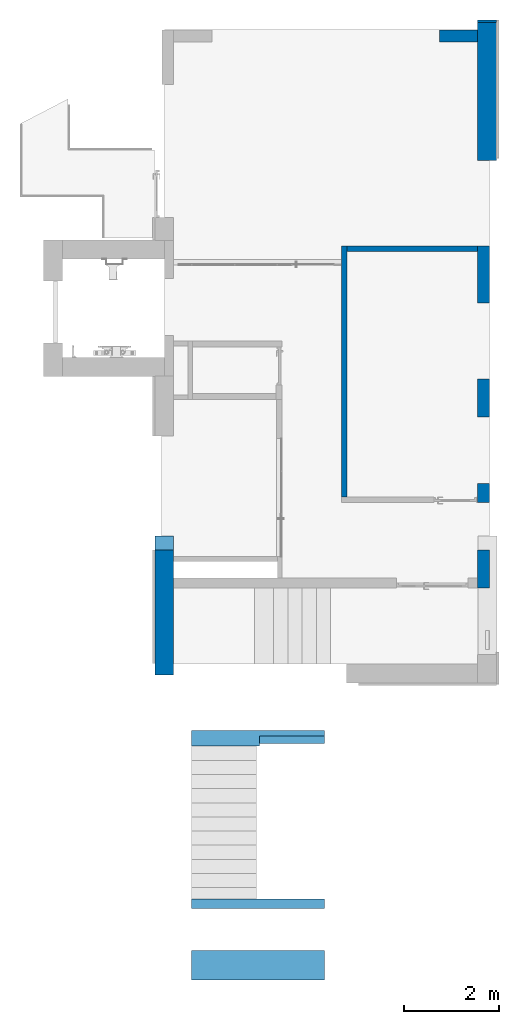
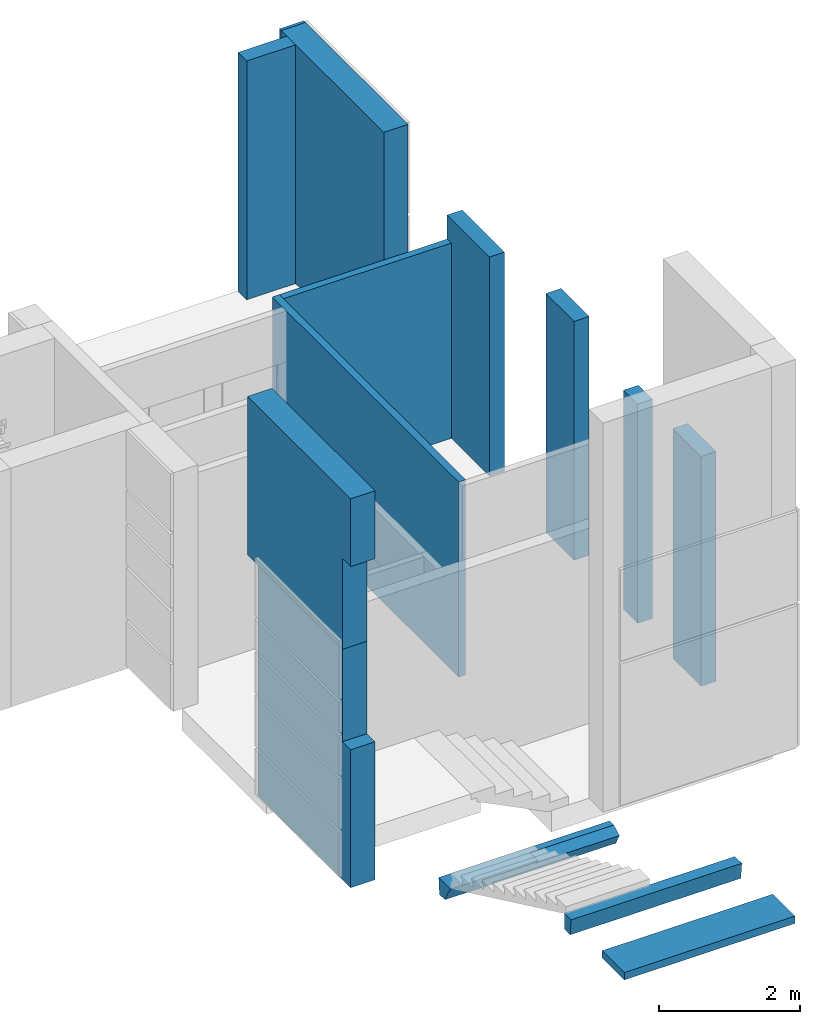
# One storey, part 5 of 15: 11 walls, 3 stairs, 3 elements without a shape of their own.
"""IFC2X3 building model written with IfcOpenShell, lengths in millimetres."""

from ifc_helpers import new_model, entity, si_unit, converted_unit, derived_unit, direction, frame, frame_2d, origin, place, context, subcontext, project, spatial, polyline, rectangle, outline, extrude, face_set, faceted_brep, surface_model, material, layer, layer_set, layer_usage, type_object, element, aggregate, save


model = new_model("IFC2X3")

# Units and contexts
model_context = context("Model", 3, precision=0.01, world=origin(), true_north=direction((6.12303176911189e-17, 1.0)))
body_context = subcontext(model_context, "Body", "Model", "MODEL_VIEW")
ifc_project = project(units=[si_unit("LENGTHUNIT", "METRE", prefix="MILLI"), si_unit("AREAUNIT", "SQUARE_METRE"), si_unit("VOLUMEUNIT", "CUBIC_METRE"), converted_unit("PLANEANGLEUNIT", "DEGREE", entity("IfcRatioMeasure", 0.0174532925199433), si_unit("PLANEANGLEUNIT", "RADIAN"), dimensions=[0, 0, 0, 0, 0, 0, 0]), si_unit("MASSUNIT", "GRAM", prefix="KILO"), derived_unit("MASSDENSITYUNIT", [(si_unit("MASSUNIT", "GRAM", prefix="KILO"), 1), (si_unit("LENGTHUNIT", "METRE"), -3)]), si_unit("TIMEUNIT", "SECOND"), si_unit("FREQUENCYUNIT", "HERTZ"), si_unit("THERMODYNAMICTEMPERATUREUNIT", "DEGREE_CELSIUS"), derived_unit("THERMALTRANSMITTANCEUNIT", [(si_unit("MASSUNIT", "GRAM", prefix="KILO"), 1), (si_unit("THERMODYNAMICTEMPERATUREUNIT", "KELVIN"), -1), (si_unit("TIMEUNIT", "SECOND"), -3)]), derived_unit("VOLUMETRICFLOWRATEUNIT", [(si_unit("LENGTHUNIT", "METRE"), 3), (si_unit("TIMEUNIT", "SECOND"), -1)]), si_unit("ELECTRICCURRENTUNIT", "AMPERE"), si_unit("ELECTRICVOLTAGEUNIT", "VOLT"), si_unit("POWERUNIT", "WATT"), si_unit("FORCEUNIT", "NEWTON", prefix="KILO"), si_unit("ILLUMINANCEUNIT", "LUX"), si_unit("LUMINOUSFLUXUNIT", "LUMEN"), si_unit("LUMINOUSINTENSITYUNIT", "CANDELA"), derived_unit("USERDEFINED", [(si_unit("MASSUNIT", "GRAM", prefix="KILO"), -1), (si_unit("LENGTHUNIT", "METRE"), -2), (si_unit("TIMEUNIT", "SECOND"), 3), (si_unit("LUMINOUSFLUXUNIT", "LUMEN"), 1)]), derived_unit("LINEARVELOCITYUNIT", [(si_unit("LENGTHUNIT", "METRE"), 1), (si_unit("TIMEUNIT", "SECOND"), -1)]), si_unit("PRESSUREUNIT", "PASCAL"), derived_unit("USERDEFINED", [(si_unit("LENGTHUNIT", "METRE"), -2), (si_unit("MASSUNIT", "GRAM", prefix="KILO"), 1), (si_unit("TIMEUNIT", "SECOND"), -2)])], contexts=[model_context])

# Site, building, storey
site_placement = place(None, frame((-151.875543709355, 2715.0, 0.0)))
site = spatial("IfcSite", under=ifc_project, at=site_placement, Name="Surface", CompositionType="ELEMENT")
building_placement = place(site_placement, origin())
building = spatial("IfcBuilding", under=site, at=building_placement, CompositionType="ELEMENT")
storey_placement = place(building_placement, frame((0.0, 0.0, 7670.0)))
storey = spatial("IfcBuildingStorey", under=building, at=storey_placement, Name="uus 3 korrus", CompositionType="ELEMENT", Elevation=7670.00000000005)

# Walls
ifc_material_1 = material(Name="__Kips GN13_tava")
ifc_layer_1 = layer(ifc_material_1, 12.5)
ifc_layer_2 = layer(ifc_material_1, 12.5)
ifc_material_2 = material(Name="__Soojustus EPS")
ifc_layer_3 = layer(ifc_material_2, 66.0)
ifc_layer_4 = layer(ifc_material_1, 12.5)
ifc_layer_5 = layer(ifc_material_1, 12.5)
ifc_layer_set_1 = layer_set([ifc_layer_1, ifc_layer_2, ifc_layer_3, ifc_layer_4, ifc_layer_5], Name="Basic Wall:SS-3_Kipssein tava ruumide vahel")
ifc_layer_usage_1 = layer_usage(ifc_layer_set_1, "AXIS2", "NEGATIVE", 58.0)
wall_type_1 = type_object("IfcWallType", Name="Basic Wall:SS-3_Kipssein tava ruumide vahel", PredefinedType="STANDARD", material=ifc_layer_set_1)
wall_1_placement = place(storey_placement, frame((35589.6162681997, 22009.9551267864, 0.0), z_axis=(0.0, 0.0, 1.0), x_axis=(0.0, -1.0, 0.0)))
element("IfcWallStandardCase", 1, at=wall_1_placement, inside=storey, type_object=wall_type_1, material=ifc_layer_usage_1, Name="Basic Wall:SS-3_Kipssein tava ruumide vahel", ObjectType="Basic Wall:SS-3_Kipssein tava ruumide vahel", context=body_context, shape_type="SweptSolid", body=[
    extrude(rectangle(XDim=5283.91025354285, YDim=116.0, at=frame_2d((2641.95512677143, -5.11590769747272e-13), x_axis=(-1.0, 0.0))), origin(), (0.0, 0.0, 1.0), 3380.0),
])
ifc_layer_usage_2 = layer_usage(ifc_layer_set_1, "AXIS2", "NEGATIVE", 58.0)
wall_2_placement = place(storey_placement, frame((35647.6162681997, 21951.9551267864, 0.0)))
element("IfcWallStandardCase", 2, at=wall_2_placement, inside=storey, type_object=wall_type_1, material=ifc_layer_usage_2, Name="Basic Wall:SS-3_Kipssein tava ruumide vahel", ObjectType="Basic Wall:SS-3_Kipssein tava ruumide vahel", context=body_context, shape_type="SweptSolid", body=[
    extrude(rectangle(XDim=2749.00000000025, YDim=116.0, at=frame_2d((1374.50000000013, 2.41584530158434e-13), x_axis=(-1.0, 0.0))), origin(), (0.0, 0.0, 1.0), 3380.0),
])
ifc_material_3 = material(Name="__Tuuletõkkeplaat")
ifc_layer_6 = layer(ifc_material_3, 9.0)
ifc_layer_7 = layer(ifc_material_2, 200.0)
ifc_material_4 = material(Name="__Kergblokk")
ifc_layer_8 = layer(ifc_material_4, 190.0)
ifc_layer_set_2 = layer_set([ifc_layer_6, ifc_layer_7, ifc_layer_8], Name="Basic Wall:VS-2.2_Juurdeehituse välissein")
wall_type_2 = type_object("IfcWallType", Name="Basic Wall:VS-2.2_Juurdeehituse välissein", PredefinedType="STANDARD", material=ifc_layer_set_2)
wall_3_placement = place(storey_placement, frame((31802.1162682, 12980.0, 0.0), z_axis=(0.0, 0.0, 1.0), x_axis=(0.0, 1.0, 0.0)))
element("IfcWall", 3, at=wall_3_placement, inside=storey, type_object=wall_type_2, Name="Basic Wall:VS-2.2_Juurdeehituse välissein", ObjectType="Basic Wall:VS-2.2_Juurdeehituse välissein", context=body_context, shape_type="Brep", body=[
    faceted_brep([(2630.0, -199.500000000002, 0.0), (2630.0, -199.500000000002, 3990.0), (230.0, -199.500000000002, 3990.0), (230.0, -199.500000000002, 2390.0), (0.0, -199.500000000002, 2390.0), (0.0, -199.500000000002, 0.0), (1830.0, -199.500000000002, 0.0), (2040.0, -199.500000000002, 0.0), (2630.0, 199.499999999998, 0.0), (0.0, 199.499999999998, 0.0), (0.0, 199.499999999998, 2390.0), (230.0, 199.499999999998, 2390.0), (230.0, 199.499999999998, 3990.0), (2630.0, 199.499999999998, 3990.0)], [[[0, 1, 2, 3, 4, 5, 6, 7]], [[8, 9, 10, 11, 12, 13]], [[1, 0, 8, 13]], [[2, 1, 13, 12]], [[0, 7, 6, 5, 9, 8]], [[5, 4, 10, 9]], [[3, 11, 10, 4]], [[3, 2, 12, 11]]]),
])
ifc_layer_usage_3 = layer_usage(ifc_layer_set_2, "AXIS2", "NEGATIVE", 199.5)
wall_4_placement = place(storey_placement, frame((38596.1162681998, 26719.0, 0.0), z_axis=(0.0, 0.0, 1.0), x_axis=(0.0, -1.0, 0.0)))
element("IfcWallStandardCase", 4, at=wall_4_placement, inside=storey, type_object=wall_type_2, material=ifc_layer_usage_3, Name="Basic Wall:VS-2.2_Juurdeehituse välissein", ObjectType="Basic Wall:VS-2.2_Juurdeehituse välissein", context=body_context, shape_type="SweptSolid", body=[
    extrude(rectangle(XDim=2908.999570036, YDim=398.999999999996, at=frame_2d((1454.499785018, -4.68958205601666e-13), x_axis=(-1.0, 0.0))), origin(), (0.0, 0.0, 1.0), 4135.0),
])
wall_5_placement = place(storey_placement, frame((31802.1162682, 12980.0, 3990.0), z_axis=(0.0, 0.0, 1.0), x_axis=(0.0, 1.0, 0.0)))
element("IfcWall", 5, at=wall_5_placement, inside=storey, type_object=wall_type_2, Name="Basic Wall:VS-2.2_Juurdeehituse välissein", ObjectType="Basic Wall:VS-2.2_Juurdeehituse välissein", context=body_context, shape_type="Brep", body=[
    faceted_brep([(230.0, -199.500000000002, 0.0), (2630.0, -199.500000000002, 0.0), (2926.03911016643, -199.500000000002, 0.0), (2926.03911016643, -199.500000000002, 2305.0), (2926.03911016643, -199.500000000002, 2745.0), (266.0, -199.500000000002, 2745.0), (0.0, -199.500000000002, 2745.0), (0.0, -199.500000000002, 1571.36961755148), (230.0, -199.500000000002, 1571.36961755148), (230.0, 199.499999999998, 0.0), (230.0, 199.499999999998, 1571.36961755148), (0.0, 199.499999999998, 1571.36961755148), (0.0, 199.499999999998, 2745.0), (2926.03911016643, 199.499999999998, 2745.0), (2926.03911016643, 199.499999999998, 0.0), (2630.0, 199.499999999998, 0.0)], [[[0, 1, 2, 3, 4, 5, 6, 7, 8]], [[9, 10, 11, 12, 13, 14, 15]], [[6, 5, 4, 13, 12]], [[4, 3, 2, 14, 13]], [[2, 1, 0, 9, 15, 14]], [[7, 11, 10, 8]], [[0, 8, 10, 9]], [[7, 6, 12, 11]]]),
])
ifc_layer_9 = layer(ifc_material_2, 57.0)
ifc_layer_10 = layer(ifc_material_4, 190.0)
ifc_layer_set_3 = layer_set([ifc_layer_9, ifc_layer_10], Name="Basic Wall:VS-2.1_Juurdeehituse välissein 2")
ifc_layer_usage_4 = layer_usage(ifc_layer_set_3, "AXIS2", "NEGATIVE", 123.5)
wall_type_3 = type_object("IfcWallType", Name="Basic Wall:VS-2.1_Juurdeehituse välissein 2", PredefinedType="STANDARD", material=ifc_layer_set_3)
wall_6_placement = place(storey_placement, frame((38520.1162681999, 15610.0, 0.0), z_axis=(0.0, 0.0, 1.0), x_axis=(0.0, -1.0, 0.0)))
element("IfcWallStandardCase", 6, at=wall_6_placement, inside=storey, type_object=wall_type_3, material=ifc_layer_usage_4, Name="Basic Wall:VS-2.1_Juurdeehituse välissein 2", ObjectType="Basic Wall:VS-2.1_Juurdeehituse välissein 2", context=body_context, shape_type="SweptSolid", body=[
    extrude(rectangle(XDim=799.999999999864, YDim=246.999999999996, at=frame_2d((399.999999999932, -5.82645043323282e-13), x_axis=(-1.0, 0.0))), origin(), (0.0, 0.0, 1.0), 3980.00000000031),
])
ifc_layer_usage_5 = layer_usage(ifc_layer_set_3, "AXIS2", "NEGATIVE", 123.5)
wall_7_placement = place(storey_placement, frame((38520.1162681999, 17010.0448732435, 0.0), z_axis=(0.0, 0.0, 1.0), x_axis=(0.0, -1.0, 0.0)))
element("IfcWallStandardCase", 7, at=wall_7_placement, inside=storey, type_object=wall_type_3, material=ifc_layer_usage_5, Name="Basic Wall:VS-2.1_Juurdeehituse välissein 2", ObjectType="Basic Wall:VS-2.1_Juurdeehituse välissein 2", context=body_context, shape_type="SweptSolid", body=[
    extrude(rectangle(XDim=400.0, YDim=246.999999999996, at=frame_2d((200.0, -2.8421709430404e-13), x_axis=(-1.0, 0.0))), origin(), (0.0, 0.0, 1.0), 3795.0),
])
ifc_layer_usage_6 = layer_usage(ifc_layer_set_3, "AXIS2", "NEGATIVE", 123.5)
wall_8_placement = place(storey_placement, frame((38520.1162682, 19210.0897464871, 0.0), z_axis=(0.0, 0.0, 1.0), x_axis=(0.0, -1.0, 0.0)))
element("IfcWallStandardCase", 8, at=wall_8_placement, inside=storey, type_object=wall_type_3, material=ifc_layer_usage_6, Name="Basic Wall:VS-2.1_Juurdeehituse välissein 2", ObjectType="Basic Wall:VS-2.1_Juurdeehituse välissein 2", context=body_context, shape_type="SweptSolid", body=[
    extrude(rectangle(XDim=800.0, YDim=246.999999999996, at=frame_2d((400.0, -5.82645043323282e-13), x_axis=(-1.0, 0.0))), origin(), (0.0, 0.0, 1.0), 4135.0),
])
ifc_layer_usage_7 = layer_usage(ifc_layer_set_3, "AXIS2", "NEGATIVE", 123.5)
wall_9_placement = place(storey_placement, frame((38520.1162682, 22009.955126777, 0.0), z_axis=(0.0, 0.0, 1.0), x_axis=(0.0, -1.0, 0.0)))
element("IfcWallStandardCase", 9, at=wall_9_placement, inside=storey, type_object=wall_type_3, material=ifc_layer_usage_7, Name="Basic Wall:VS-2.1_Juurdeehituse välissein 2", ObjectType="Basic Wall:VS-2.1_Juurdeehituse välissein 2", context=body_context, shape_type="SweptSolid", body=[
    extrude(rectangle(XDim=1199.99999999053, YDim=246.999999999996, at=frame_2d((599.999999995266, -8.73967564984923e-13), x_axis=(-1.0, 0.0))), origin(), (0.0, 0.0, 1.0), 3795.0),
])
ifc_layer_usage_8 = layer_usage(ifc_layer_set_3, "AXIS2", "NEGATIVE", 123.5)
wall_10_placement = place(storey_placement, frame((37596.1162682, 26433.5000265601, 0.0)))
element("IfcWallStandardCase", 10, at=wall_10_placement, inside=storey, type_object=wall_type_3, material=ifc_layer_usage_8, Name="Basic Wall:VS-2.1_Juurdeehituse välissein 2", ObjectType="Basic Wall:VS-2.1_Juurdeehituse välissein 2", context=body_context, shape_type="SweptSolid", body=[
    extrude(rectangle(XDim=800.499999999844, YDim=246.999999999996, at=frame_2d((400.249999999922, -1.46371803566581e-12), x_axis=(-1.0, 0.0))), origin(), (0.0, 0.0, 1.0), 4135.0),
])
ifc_material_5 = material(Name="Steel/Aluminium")
wall_type_4 = type_object("IfcWallType", Name="fassaad2:fassaad2", PredefinedType="NOTDEFINED", material=ifc_material_5)
wall_11_placement = place(storey_placement, frame((38395.6162681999, 26719.0, 50.0)))
element("IfcWall", 11, at=wall_11_placement, inside=storey, type_object=wall_type_4, material=ifc_material_5, Name="fassaad2:fassaad2", ObjectType="fassaad2:fassaad2", context=body_context, shape_type="SweptSolid", body=[
    extrude(rectangle(XDim=50.0000000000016, YDim=400.0, at=frame_2d((2.16715534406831e-12, 0.0), x_axis=(1.0, 0.0))), frame((200.0, 25.0, 2500.0), z_axis=(0.0, 0.0, 1.0), x_axis=(0.0, -1.0, 0.0)), (0.0, 0.0, 1.0), 1585.0),
    extrude(rectangle(XDim=50.0000000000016, YDim=400.0, at=frame_2d((2.16715534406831e-12, 0.0), x_axis=(1.0, 0.0))), frame((200.0, 25.0, 0.0), z_axis=(0.0, 0.0, 1.0), x_axis=(0.0, -1.0, 0.0)), (0.0, 0.0, 1.0), 2450.0),
])

# Stairs
stair_1_placement = place(storey_placement, frame((32371.6162682, 11481.502533, 334.930019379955)))
stair_1 = element("IfcStair", 12, at=stair_1_placement, inside=storey, Name="OBJEKT-019:OBJEKT-019", ObjectType="OBJEKT-019:OBJEKT-019", ShapeType="NOTDEFINED")
ifc_material_6 = material(Name="Paint - Sand Beige")
stair_2_placement = place(stair_1_placement, origin())
stair_2 = element("IfcStair", 13, at=stair_2_placement, material=ifc_material_6, Name="OBJEKT-019:OBJEKT-019", ObjectType="OBJEKT-019:OBJEKT-019", ShapeType="NOTDEFINED", context=body_context, shape_type="SurfaceModel", body=[
    surface_model("IfcFaceBasedSurfaceModel", [(0.0, 0.0, 280.891418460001), (1430.0, 0.0, 280.891418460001), (1430.0, 217.6244557, 280.891418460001), (2800.0, 217.6244557, 280.891418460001), (2800.0, 335.237907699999, 280.891418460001), (0.0, 335.237907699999, 280.891418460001), (0.0, 0.0, 280.891418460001), (0.0, 57.0137452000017, 194.457438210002), (1430.0, 57.0137452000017, 194.457438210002), (1430.0, 0.0, 280.891418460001), (1430.0, 0.0, 280.891418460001), (1430.0, 57.0137452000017, 194.457438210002), (1430.0, 217.6244557, 280.891418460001), (1430.0, 217.6244557, 280.891418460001), (1430.0, 57.0137452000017, 194.457438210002), (2800.0, 57.0137452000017, 194.457438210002), (2800.0, 217.6244557, 280.891418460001), (2800.0, 217.6244557, 280.891418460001), (2800.0, 57.0137452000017, 194.457438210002), (2800.0, 159.545898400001, 0.0), (2800.0, 313.232421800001, 0.0), (2800.0, 335.237907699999, 280.891418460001), (0.0, 313.232421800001, 0.0), (0.0, 335.237907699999, 280.891418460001), (2800.0, 335.237907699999, 280.891418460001), (2800.0, 313.232421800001, 0.0), (0.0, 57.0137452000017, 194.457438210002), (0.0, 0.0, 280.891418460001), (0.0, 335.237907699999, 280.891418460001), (0.0, 313.232421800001, 0.0), (0.0, 159.545898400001, 0.0), (1430.0, 57.0137452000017, 194.457438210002), (0.0, 57.0137452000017, 194.457438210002), (0.0, 159.545898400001, 0.0), (2800.0, 159.545898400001, 0.0), (2800.0, 57.0137452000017, 194.457438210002), (0.0, 159.545898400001, 0.0), (0.0, 313.232421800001, 0.0), (2800.0, 313.232421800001, 0.0), (2800.0, 159.545898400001, 0.0)], [face_set([[[0, 1, 2, 3, 4, 5]]]), face_set([[[6, 7, 8, 9]]]), face_set([[[10, 11, 12]]]), face_set([[[13, 14, 15, 16]]]), face_set([[[17, 18, 19, 20, 21]]]), face_set([[[22, 23, 24, 25]]]), face_set([[[26, 27, 28, 29, 30]]]), face_set([[[31, 32, 33, 34, 35]]]), face_set([[[36, 37, 38, 39]]])]),
])
aggregate(stair_1, [stair_2])

stair_3_placement = place(storey_placement, origin())
stair_3 = element("IfcStair", 14, at=stair_3_placement, inside=storey, Name="OBJEKT-017:OBJEKT-017", ObjectType="OBJEKT-017:OBJEKT-017", ShapeType="NOTDEFINED")
stair_4_placement = place(stair_3_placement, origin())
stair_4 = element("IfcStair", 15, at=stair_4_placement, material=ifc_material_6, Name="OBJEKT-017:OBJEKT-017", ObjectType="OBJEKT-017:OBJEKT-017", ShapeType="NOTDEFINED", context=body_context, shape_type="SweptSolid", body=[
    extrude(rectangle(XDim=624.975313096, YDim=2795.480518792, at=frame_2d((5.40012479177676e-13, -2.1600499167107e-12), x_axis=(1.0, 0.0))), frame((33773.876008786, 6872.487656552, 2026.56515121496), z_axis=(0.0, 0.0, 1.0), x_axis=(0.0, -1.0, 0.0)), (0.0, 0.0, 1.0), 128.173828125),
])
aggregate(stair_3, [stair_4])

stair_5_placement = place(storey_placement, origin())
stair_5 = element("IfcStair", 16, at=stair_5_placement, inside=storey, Name="OBJEKT-018:OBJEKT-018", ObjectType="OBJEKT-018:OBJEKT-018", ShapeType="NOTDEFINED")
stair_6_placement = place(stair_5_placement, origin())
stair_6 = element("IfcStair", 17, at=stair_6_placement, material=ifc_material_6, Name="OBJEKT-018:OBJEKT-018", ObjectType="OBJEKT-018:OBJEKT-018", ShapeType="NOTDEFINED", context=body_context, shape_type="SweptSolid", body=[
    extrude(outline(polyline([(-148.746868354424, -87.9711572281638), (130.096947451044, -87.9711572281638), (146.644411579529, 68.1366971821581), (-127.99449067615, 107.805617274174), (-148.746868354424, -87.9711572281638)])), frame((32376.13574939, 8168.1851562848, 2016.09380722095), z_axis=(1.0, 0.0, 0.0), x_axis=(0.0, 0.105409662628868, -0.994428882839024)), (0.0, 0.0, 1.0), 2795.480518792),
])
aggregate(stair_5, [stair_6])

save(model, "model.ifc")
